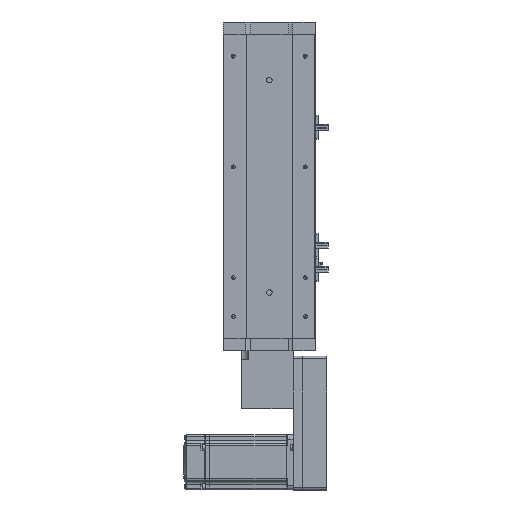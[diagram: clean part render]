
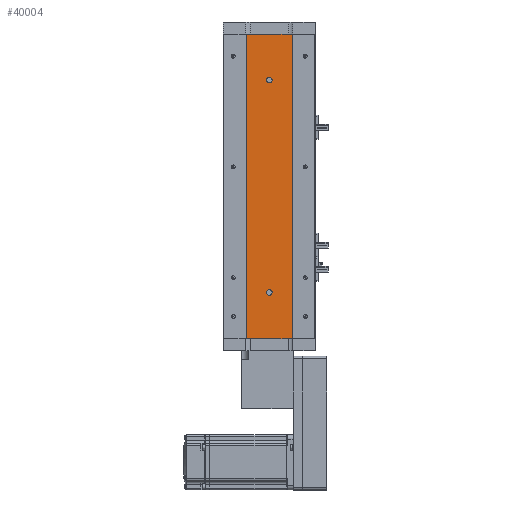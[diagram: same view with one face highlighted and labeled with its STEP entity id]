
A CAD part, left-side view. The second image highlights one B-rep face of the part: STEP entity #40004.
In plain terms, the highlighted planar face has unit normal (-1, 0, 0).
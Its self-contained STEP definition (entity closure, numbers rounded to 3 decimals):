
#945 = ORIENTED_EDGE ( 'NONE', *, *, #36616, .F. ) ;
#1608 = ORIENTED_EDGE ( 'NONE', *, *, #36784, .F. ) ;
#1778 = EDGE_CURVE ( 'NONE', #22913, #26794, #59951, .T. ) ;
#2188 = VERTEX_POINT ( 'NONE', #23570 ) ;
#2593 = FACE_BOUND ( 'NONE', #31917, .T. ) ;
#2634 = VECTOR ( 'NONE', #4145, 1000. ) ;
#2775 = CARTESIAN_POINT ( 'NONE',  ( -18.926, 0., 283. ) ) ;
#3205 = EDGE_CURVE ( 'NONE', #14645, #58561, #30956, .T. ) ;
#4145 = DIRECTION ( 'NONE',  ( 0., -1., 0. ) ) ;
#4622 = DIRECTION ( 'NONE',  ( 0., 0., -1. ) ) ;
#6278 = LINE ( 'NONE', #44022, #54759 ) ;
#6367 = DIRECTION ( 'NONE',  ( 0., -1., 0. ) ) ;
#6664 = VERTEX_POINT ( 'NONE', #20532 ) ;
#7098 = CARTESIAN_POINT ( 'NONE',  ( -18.926, 0., 50. ) ) ;
#7630 = AXIS2_PLACEMENT_3D ( 'NONE', #50576, #50171, #49980 ) ;
#7891 = CIRCLE ( 'NONE', #49498, 3. ) ;
#8171 = CARTESIAN_POINT ( 'NONE',  ( -18.926, 24.785, 0. ) ) ;
#9850 = ORIENTED_EDGE ( 'NONE', *, *, #1778, .F. ) ;
#11828 = DIRECTION ( 'NONE',  ( 0., 0., 1. ) ) ;
#12131 = FACE_OUTER_BOUND ( 'NONE', #25344, .T. ) ;
#14645 = VERTEX_POINT ( 'NONE', #52656 ) ;
#15142 = LINE ( 'NONE', #36829, #2634 ) ;
#15368 = CIRCLE ( 'NONE', #22650, 3. ) ;
#16169 = DIRECTION ( 'NONE',  ( -1., 0., 0. ) ) ;
#19727 = PLANE ( 'NONE',  #46063 ) ;
#20532 = CARTESIAN_POINT ( 'NONE',  ( -18.926, 24.785, 330. ) ) ;
#22175 = VERTEX_POINT ( 'NONE', #53368 ) ;
#22200 = ORIENTED_EDGE ( 'NONE', *, *, #41575, .F. ) ;
#22484 = CARTESIAN_POINT ( 'NONE',  ( -18.926, -24.785, 0. ) ) ;
#22650 = AXIS2_PLACEMENT_3D ( 'NONE', #7098, #40023, #11828 ) ;
#22913 = VERTEX_POINT ( 'NONE', #2775 ) ;
#23542 = CARTESIAN_POINT ( 'NONE',  ( -18.926, -24.785, 330. ) ) ;
#23570 = CARTESIAN_POINT ( 'NONE',  ( -18.926, 0., 53. ) ) ;
#24458 = DIRECTION ( 'NONE',  ( 1., 0., 0. ) ) ;
#25310 = DIRECTION ( 'NONE',  ( 0., 0., -1. ) ) ;
#25344 = EDGE_LOOP ( 'NONE', ( #50716, #945, #56663, #27643 ) ) ;
#25794 = CARTESIAN_POINT ( 'NONE',  ( -18.926, 0., 50. ) ) ;
#25873 = VECTOR ( 'NONE', #4622, 1000. ) ;
#26794 = VERTEX_POINT ( 'NONE', #53863 ) ;
#27341 = LINE ( 'NONE', #23542, #25873 ) ;
#27580 = EDGE_LOOP ( 'NONE', ( #22200, #30092 ) ) ;
#27643 = ORIENTED_EDGE ( 'NONE', *, *, #58869, .T. ) ;
#28504 = EDGE_CURVE ( 'NONE', #51821, #2188, #7891, .T. ) ;
#30092 = ORIENTED_EDGE ( 'NONE', *, *, #28504, .F. ) ;
#30523 = DIRECTION ( 'NONE',  ( 0., 0., 1. ) ) ;
#30956 = LINE ( 'NONE', #8171, #43466 ) ;
#31917 = EDGE_LOOP ( 'NONE', ( #9850, #1608 ) ) ;
#36616 = EDGE_CURVE ( 'NONE', #22175, #58561, #27341, .T. ) ;
#36784 = EDGE_CURVE ( 'NONE', #26794, #22913, #54442, .T. ) ;
#36829 = CARTESIAN_POINT ( 'NONE',  ( -18.926, 24.785, 330. ) ) ;
#40004 = ADVANCED_FACE ( 'NONE', ( #49640, #2593, #12131 ), #19727, .F. ) ;
#40023 = DIRECTION ( 'NONE',  ( -1., 0., 0. ) ) ;
#41575 = EDGE_CURVE ( 'NONE', #2188, #51821, #15368, .T. ) ;
#43466 = VECTOR ( 'NONE', #6367, 1000. ) ;
#44022 = CARTESIAN_POINT ( 'NONE',  ( -18.926, 24.785, 330. ) ) ;
#44296 = CARTESIAN_POINT ( 'NONE',  ( -18.926, 0., 280. ) ) ;
#46063 = AXIS2_PLACEMENT_3D ( 'NONE', #52607, #24458, #57287 ) ;
#48601 = EDGE_CURVE ( 'NONE', #6664, #22175, #15142, .T. ) ;
#48886 = CARTESIAN_POINT ( 'NONE',  ( -18.926, 0., 47. ) ) ;
#49045 = DIRECTION ( 'NONE',  ( 0., 0., 1. ) ) ;
#49498 = AXIS2_PLACEMENT_3D ( 'NONE', #25794, #58605, #30523 ) ;
#49640 = FACE_BOUND ( 'NONE', #27580, .T. ) ;
#49980 = DIRECTION ( 'NONE',  ( 0., 0., 1. ) ) ;
#50171 = DIRECTION ( 'NONE',  ( -1., 0., 0. ) ) ;
#50576 = CARTESIAN_POINT ( 'NONE',  ( -18.926, 0., 280. ) ) ;
#50716 = ORIENTED_EDGE ( 'NONE', *, *, #3205, .T. ) ;
#51821 = VERTEX_POINT ( 'NONE', #48886 ) ;
#52607 = CARTESIAN_POINT ( 'NONE',  ( -18.926, 24.785, 330. ) ) ;
#52656 = CARTESIAN_POINT ( 'NONE',  ( -18.926, 24.785, 0. ) ) ;
#52849 = AXIS2_PLACEMENT_3D ( 'NONE', #44296, #16169, #49045 ) ;
#53368 = CARTESIAN_POINT ( 'NONE',  ( -18.926, -24.785, 330. ) ) ;
#53863 = CARTESIAN_POINT ( 'NONE',  ( -18.926, 0., 277. ) ) ;
#54442 = CIRCLE ( 'NONE', #52849, 3. ) ;
#54759 = VECTOR ( 'NONE', #25310, 1000. ) ;
#56663 = ORIENTED_EDGE ( 'NONE', *, *, #48601, .F. ) ;
#57287 = DIRECTION ( 'NONE',  ( 0., 0., -1. ) ) ;
#58561 = VERTEX_POINT ( 'NONE', #22484 ) ;
#58605 = DIRECTION ( 'NONE',  ( -1., 0., 0. ) ) ;
#58869 = EDGE_CURVE ( 'NONE', #6664, #14645, #6278, .T. ) ;
#59951 = CIRCLE ( 'NONE', #7630, 3. ) ;
